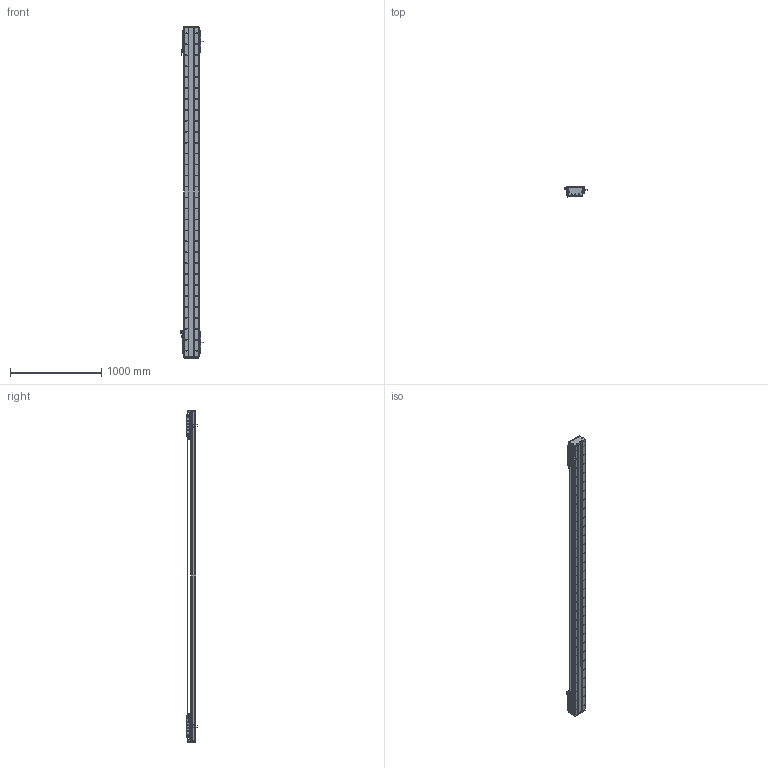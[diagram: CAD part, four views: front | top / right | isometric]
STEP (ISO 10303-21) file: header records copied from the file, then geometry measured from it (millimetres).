
FILE_DESCRIPTION (( 'STEP AP203' ), '1' );
FILE_NAME ('DA-C165-2-C3-T3020-C010-0.2 直线电机.STEP', '2023-06-13T09:11:55', ( '微软用户' ), ( '微软中国' ), 'SwSTEP 2.0', 'SolidWorks 2019', '' );
FILE_SCHEMA (( 'CONFIG_CONTROL_DESIGN' ));
Length unit declared in the file: millimetre
Products named in the file (22): IU-CU165-L 菁釱絳寢; 复件 DA165-GD-DG-H-00 端盖^复件 CU165钢带组件_DA-C165-C3-T-C010-0.2-N 直线电机; 复件 CU165钢带组件^DA-C165-C3-T-C010-0.2-N 直线电机; 复件 DA165-GDYK-00 钢带压块^复件 CU165钢带组件_DA-C165-C3-T-C010-0.2-N 直线电机; 复件 XD-U-02L 磁栅尺^DA-C165-C3-T-C010-0.2-N 直线电机_T; 复件 66338-1000-006-00 光电感应块^DA-C165-C3-T-C010-0.2-N 直线电机; 葩璃 CKM03-W075-C1C2-TP-3.0^DA-C165-C3-T-C010-0.2-N 眻盄萇儂; 葩璃 PM-T45^DA-C165-C3-T-C010-0.2-N 眻盄萇儂; 复件 DMA-010-0.2 读数头^DA-C165-C3-T-C010-0.2-N 直线电机; 葩璃 CKM01-W075-TRL^DA-C165-C3-T-C010-0.2-N 眻盄萇儂; DA-C165-2-C3-T3020-C010-0.2 眻盄萇儂; 复件 DA165-GYP-00 光电感应片^DA-C165-C3-T-C010-0.2-N 直线电机; 复件 六角薄螺母 M3^DA-C165-C3-T-C010-0.2-N 直线电机_GB_FASTENER_NUT_STNAB M3-C; 葩璃 PM-Y45^DA-C165-C3-T-C010-0.2-N 眻盄萇儂; 复件 DA165-GDLK-00 钢带拉块^复件 CU165钢带组件_DA-C165-C3-T-C010-0.2-N 直线电机; 复件 DA165-GD-1860-002-00 钢带盖板^复件 CU165钢带组件_DA-C165-C3-T-C010-0.2-N 直线电机; 复件 DA95-HXJ-00 缓冲橡胶^DA-C165-C3-T-C010-0.2-N 直线电机; 复件 CU165 底座^IU-CU165-L 底座导轨_L3600; 复件 DKW-HXJ-JY-00 缓冲橡胶^DA-C165-C3-T-C010-0.2-N 直线电机; 复件 DA126-GYP-ZJ-00 中间光电感应片^DA-C165-C3-T-C010-0.2-N 直线电机; 珨极趙賑雄怢啣C3-wf; 葩璃 DA95-GT-T-00^IU-CU165-L 菁釱絳寢_T
Assembly tree (45 placements, depth 3):
  DA-C165-2-C3-T3020-C010-0.2 眻盄萇儂
    IU-CU165-L 菁釱絳寢
      复件 CU165 底座^IU-CU165-L 底座导轨_L3600
      葩璃 DA95-GT-T-00^IU-CU165-L 菁釱絳寢_T  x4
    复件 XD-U-02L 磁栅尺^DA-C165-C3-T-C010-0.2-N 直线电机_T
    葩璃 PM-T45^DA-C165-C3-T-C010-0.2-N 眻盄萇儂  x4
    葩璃 CKM01-W075-TRL^DA-C165-C3-T-C010-0.2-N 眻盄萇儂
    复件 CU165钢带组件^DA-C165-C3-T-C010-0.2-N 直线电机
      复件 DA165-GD-DG-H-00 端盖^复件 CU165钢带组件_DA-C165-C3-T-C010-0.2-N 直线电机  x2
      复件 DA165-GDYK-00 钢带压块^复件 CU165钢带组件_DA-C165-C3-T-C010-0.2-N 直线电机  x2
      复件 DA165-GD-1860-002-00 钢带盖板^复件 CU165钢带组件_DA-C165-C3-T-C010-0.2-N 直线电机
      复件 DA165-GDLK-00 钢带拉块^复件 CU165钢带组件_DA-C165-C3-T-C010-0.2-N 直线电机  x2
    复件 DA95-HXJ-00 缓冲橡胶^DA-C165-C3-T-C010-0.2-N 直线电机  x4
    复件 DMA-010-0.2 读数头^DA-C165-C3-T-C010-0.2-N 直线电机  x2
    复件 DA165-GYP-00 光电感应片^DA-C165-C3-T-C010-0.2-N 直线电机  x2
    复件 66338-1000-006-00 光电感应块^DA-C165-C3-T-C010-0.2-N 直线电机
    葩璃 PM-Y45^DA-C165-C3-T-C010-0.2-N 眻盄萇儂
    复件 DA126-GYP-ZJ-00 中间光电感应片^DA-C165-C3-T-C010-0.2-N 直线电机
    葩璃 CKM03-W075-C1C2-TP-3.0^DA-C165-C3-T-C010-0.2-N 眻盄萇儂  x2
    复件 DKW-HXJ-JY-00 缓冲橡胶^DA-C165-C3-T-C010-0.2-N 直线电机  x2
    复件 六角薄螺母 M3^DA-C165-C3-T-C010-0.2-N 直线电机_GB_FASTENER_NUT_STNAB M3-C  x8
    珨极趙賑雄怢啣C3-wf  x2
Bounding box: 247.2 x 111.45 x 3640 mm (x, y, z)
Volume: 22112410.9 mm3; surface area: 6427305.1 mm2
Topology: 121 solids, 221 shells, 7061 faces, 19780 edges, 12402 vertices
Faces by surface type: cylinder 3942, plane 2051, cone 980, torus 80, sphere 8
Entity records: 173470 total; most frequent: CARTESIAN_POINT 48513, ORIENTED_EDGE 26144, DIRECTION 25018, EDGE_CURVE 13072, AXIS2_PLACEMENT_3D 9605, VERTEX_POINT 8556, EDGE_LOOP 6002, LINE 5808
